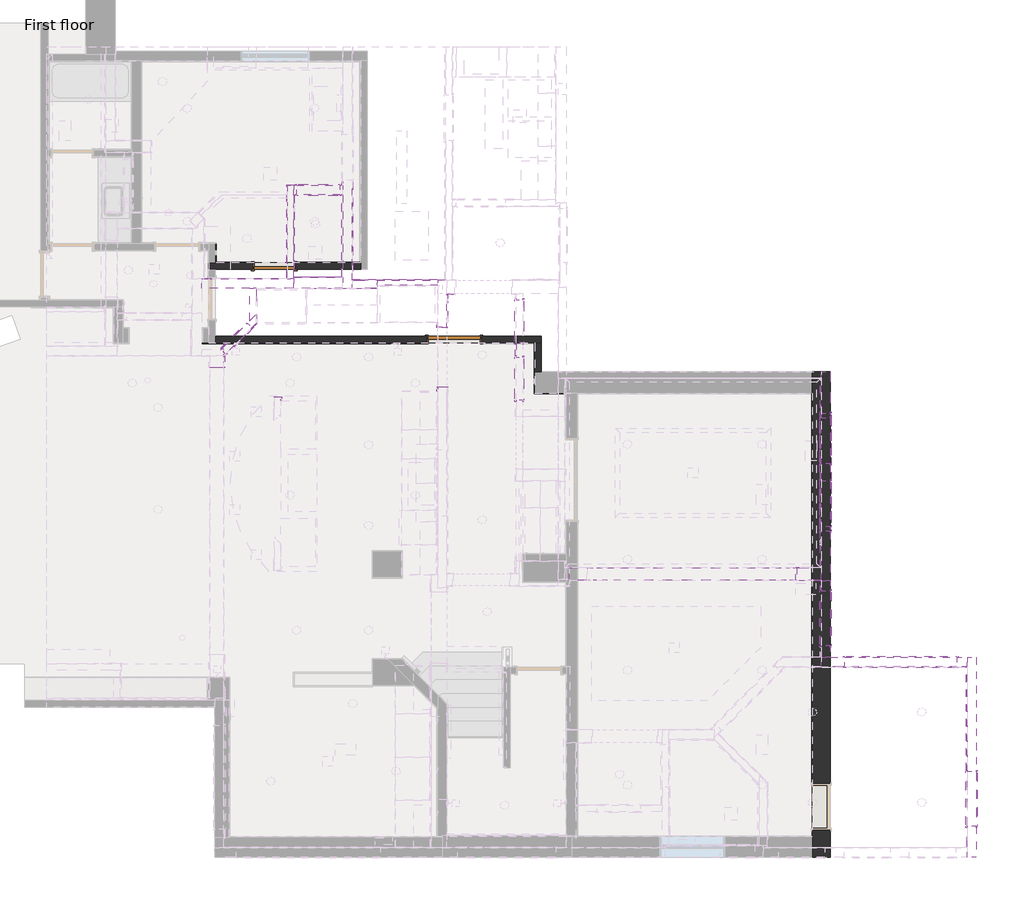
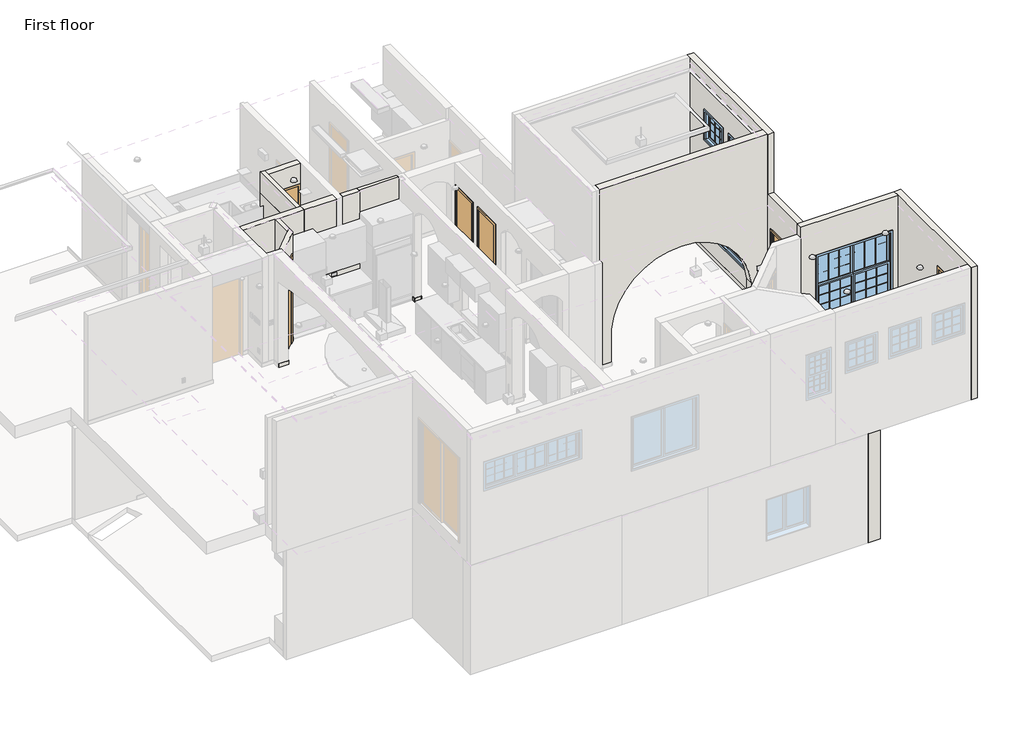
# One storey, part 6 of 14: 58 walls, 8 doors, 4 windows.
"""IFC4 building model written with IfcOpenShell, lengths in millimetres."""

from ifc_helpers import new_model, si_unit, frame, origin, origin_with_axes, place, context, project, spatial, polyline, circle_curve, outline, extrude, faceted_brep, transform, mapped, element, save
from ifc_brep_helpers import plane_surface, revolved_surface, advanced_brep
from components import door_ce178138, door_2f67bbe1, door_b1a27719, door_855f9067, door_d19942fc, door_a6e0097c, door_cd79e99e, window_02a85cad, window_b70387c5, window_753088f9

model = new_model("IFC4")

# Units and contexts
model_context = context("Model", 3, world=origin())
ifc_project = project(units=[si_unit("LENGTHUNIT", "METRE", prefix="MILLI")], contexts=[model_context])

# Site, building, storey
site = spatial("IfcSite", under=ifc_project)
building = spatial("IfcBuilding", under=site)
storey = spatial("IfcBuildingStorey", under=building, Name="First floor", Elevation=0.0)

# Doors
placement = place(None, origin())
door_shape = door_ce178138(model_context)
element("IfcDoor", 1, ObjectType="C_Single Door : 2'-0\" X 8'-0\"", at=placement, inside=storey, context=model_context, shape_type="MappedRepresentation", body=[
    mapped(door_shape, transform((385.1436821, 9152.7659872, 3251.2), x_axis=(0.7071067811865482, 0.7071067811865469, 0.0), y_axis=(-0.7071067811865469, 0.7071067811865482, 0.0), z_axis=(0.0, 0.0, 1.0))),
])
door_2_shape = door_2f67bbe1(model_context)
element("IfcDoor", 2, ObjectType="C_Single Door : 2'-4\" X 8'-0\"", at=placement, inside=storey, context=model_context, shape_type="MappedRepresentation", body=[
    mapped(door_2_shape, transform((5378.45, 9461.3947939, 3251.2), x_axis=(0.0, 1.0, 0.0), y_axis=(-1.0, 0.0, 0.0), z_axis=(0.0, 0.0, 1.0))),
])
element("IfcDoor", 3, ObjectType="C_Single Door : 2'-4\" X 8'-0\"", at=placement, inside=storey, context=model_context, shape_type="MappedRepresentation", body=[
    mapped(door_2_shape, transform((5378.45, 8445.3947939, 3251.2), x_axis=(0.0, 1.0, 0.0), y_axis=(-1.0, 0.0, 0.0), z_axis=(0.0, 0.0, 1.0))),
])
door_3_shape = door_b1a27719(model_context)
element("IfcDoor", 4, ObjectType="C_Single Door : 2'-4\" X 8'-0\"", at=placement, inside=storey, context=model_context, shape_type="MappedRepresentation", body=[
    mapped(door_3_shape, transform((1828.8, 11779.1447939, 3251.2), x_axis=(-1.0, 0.0, 0.0), y_axis=(0.0, -1.0, 0.0), z_axis=(0.0, 0.0, 1.0))),
])
door_4_shape = door_855f9067(model_context)
element("IfcDoor", 5, ObjectType="C_Single Door : 2'-4\" X 8'-2\"", at=placement, inside=storey, context=model_context, shape_type="MappedRepresentation", body=[
    mapped(door_4_shape, transform((1054.1, 10433.05, 0.0), x_axis=(1.0, 0.0, 0.0), y_axis=(0.0, 1.0, 0.0), z_axis=(0.0, 0.0, 1.0))),
])
door_5_shape = door_d19942fc(model_context)
element("IfcDoor", 6, ObjectType="C_Single Door : 3'-0\" X 8'-0\"", at=placement, inside=storey, context=model_context, shape_type="MappedRepresentation", body=[
    mapped(door_5_shape, transform((13366.75, 1028.7, 3251.2), x_axis=(0.0, 1.0, 0.0), y_axis=(-1.0, 0.0, 0.0), z_axis=(0.0, 0.0, 1.0))),
])
door_6_shape = door_a6e0097c(model_context)
element("IfcDoor", 7, ObjectType="C_Single Door : 3'-0\" X 8'-0\"", at=placement, inside=storey, context=model_context, shape_type="MappedRepresentation", body=[
    mapped(door_6_shape, transform((4229.1, 9137.65, 0.0), x_axis=(-1.0, 0.0, 0.0), y_axis=(0.0, -1.0, 0.0), z_axis=(0.0, 0.0, 1.0))),
])
door_7_shape = door_cd79e99e(model_context)
element("IfcDoor", 8, ObjectType="C_Single Door Glass : 3'-0\" X 8'-0\"", at=placement, inside=storey, context=model_context, shape_type="MappedRepresentation", body=[
    mapped(door_7_shape, transform((10788.65, 4216.4, 3251.2), x_axis=(0.0, 1.0, 0.0), y_axis=(-1.0, 0.0, 0.0), z_axis=(0.0, 0.0, 1.0))),
])

# Walls
element("IfcWall", 9, ObjectType="Wall Border_T1", at=placement, inside=storey, context=model_context, shape_type="SweptSolid", body=[
    extrude(outline(polyline([(10541.0, 1320.8), (10541.0, 8178.8), (10553.7, 8178.8), (10553.7, 1320.8), (10541.0, 1320.8)])), origin_with_axes(), (0.0, 0.0, 1.0), 101.6),
])
element("IfcWall", 10, ObjectType="Wall Border_T1", at=placement, inside=storey, context=model_context, shape_type="Brep", body=[
    faceted_brep([(-215.9, 9067.8, 0.0), (3721.1, 9067.8, 0.0), (3721.1, 9067.8, 101.6), (-215.9, 9067.8, 101.6), (-215.9, 9080.5, 0.0), (-215.9, 9080.5, 101.6), (-203.2, 9080.5, 101.6), (3721.1, 9080.5, 101.6), (3721.1, 9080.5, 0.0), (-203.2, 9080.5, 0.0)], [[[0, 1, 2, 3]], [[4, 5, 6, 7, 8, 9]], [[1, 0, 4, 9, 8]], [[2, 1, 8, 7]], [[3, 2, 7, 6, 5]], [[0, 3, 5, 4]]]),
])
element("IfcWall", 11, ObjectType="Wall Border_T1", at=placement, inside=storey, context=model_context, shape_type="Brep", body=[
    faceted_brep([(5638.8, 9080.5, 0.0), (5638.8, 9067.8, 0.0), (5638.8, 8191.5, 0.0), (5638.8, 8191.5, 101.6), (5638.8, 9067.8, 101.6), (5638.8, 9080.5, 101.6), (5651.5, 9080.5, 0.0), (5651.5, 9080.5, 101.6), (5651.5, 8191.5, 101.6), (5651.5, 8191.5, 0.0)], [[[0, 1, 2, 3, 4, 5]], [[6, 7, 8, 9]], [[2, 1, 0, 6, 9]], [[3, 2, 9, 8]], [[5, 4, 3, 8, 7]], [[0, 5, 7, 6]]]),
])
element("IfcWall", 12, ObjectType="Wall Border_T1", at=placement, inside=storey, context=model_context, shape_type="Brep", body=[
    faceted_brep([(5638.8, 8178.8, 0.0), (6197.6, 8178.8, 0.0), (6197.6, 8178.8, 101.6), (5638.8, 8178.8, 101.6), (5638.8, 8191.5, 0.0), (5638.8, 8191.5, 101.6), (5651.5, 8191.5, 101.6), (6197.6, 8191.5, 101.6), (6197.6, 8191.5, 0.0), (5651.5, 8191.5, 0.0)], [[[0, 1, 2, 3]], [[4, 5, 6, 7, 8, 9]], [[1, 0, 4, 9, 8]], [[2, 1, 8, 7]], [[3, 2, 7, 6, 5]], [[0, 3, 5, 4]]]),
])
element("IfcWall", 13, ObjectType="Wall Border_T1", at=placement, inside=storey, context=model_context, shape_type="Brep", body=[
    faceted_brep([(1460.5, 10490.2, 0.0), (2578.1, 10490.2, 0.0), (2578.1, 10490.2, 101.6), (1460.5, 10490.2, 101.6), (1460.5, 10502.9, 0.0), (1460.5, 10502.9, 101.6), (2565.4, 10502.9, 101.6), (2578.1, 10502.9, 101.6), (2578.1, 10502.9, 0.0), (2565.4, 10502.9, 0.0)], [[[0, 1, 2, 3]], [[4, 5, 6, 7, 8, 9]], [[1, 0, 4, 9, 8]], [[2, 1, 8, 7]], [[3, 2, 7, 6, 5]], [[0, 3, 5, 4]]]),
])
element("IfcWall", 14, ObjectType="Wall Border_T1", at=placement, inside=storey, context=model_context, shape_type="SweptSolid", body=[
    extrude(outline(polyline([(647.7, 10502.9), (647.7, 10490.2), (25.4, 10490.2), (25.4, 10502.9), (647.7, 10502.9)])), origin_with_axes(), (0.0, 0.0, 1.0), 101.6),
])
element("IfcWall", 15, ObjectType="Wall Border_T1", at=placement, inside=storey, context=model_context, shape_type="Brep", body=[
    faceted_brep([(25.4, 10490.2, 0.0), (25.4, 10502.9, 0.0), (25.4, 10833.1, 0.0), (25.4, 10833.1, 101.6), (25.4, 10502.9, 101.6), (25.4, 10490.2, 101.6), (12.7, 10490.2, 0.0), (12.7, 10490.2, 101.6), (12.7, 10833.1, 101.6), (12.7, 10833.1, 0.0)], [[[0, 1, 2, 3, 4, 5]], [[6, 7, 8, 9]], [[2, 1, 0, 6, 9]], [[3, 2, 9, 8]], [[5, 4, 3, 8, 7]], [[0, 5, 7, 6]]]),
])
element("IfcWall", 16, ObjectType="Wall Border_T1", at=placement, inside=storey, context=model_context, shape_type="SweptSolid", body=[
    extrude(outline(polyline([(5308.6, 8851.7947939), (5308.6, 9054.9947939), (5321.3, 9054.9947939), (5321.3, 8851.7947939), (5308.6, 8851.7947939)])), frame((0.0, 0.0, 3251.2), z_axis=(0.0, 0.0, 1.0), x_axis=(1.0, 0.0, 0.0)), (0.0, 0.0, 1.0), 101.6),
])
element("IfcWall", 17, ObjectType="Wall Border_T1", at=placement, inside=storey, context=model_context, shape_type="Brep", body=[
    faceted_brep([(4241.8, 9943.9947939, 3251.2), (4102.1, 9943.9947939, 3251.2), (4102.1, 9943.9947939, 3352.8), (4241.8, 9943.9947939, 3352.8), (4241.8, 9931.2947939, 3251.2), (4241.8, 9931.2947939, 3352.8), (4114.8, 9931.2947939, 3352.8), (4102.1, 9931.2947939, 3352.8), (4102.1, 9931.2947939, 3251.2), (4114.8, 9931.2947939, 3251.2)], [[[0, 1, 2, 3]], [[4, 5, 6, 7, 8, 9]], [[1, 0, 4, 9, 8]], [[3, 2, 7, 6, 5]], [[0, 3, 5, 4]], [[2, 1, 8, 7]]]),
])
element("IfcWall", 18, ObjectType="Wall Border_T1", at=placement, inside=storey, context=model_context, shape_type="Brep", body=[
    faceted_brep([(4102.1, 9931.2947939, 3251.2), (4102.1, 9359.7947939, 3251.2), (4102.1, 9347.0947939, 3251.2), (4102.1, 9347.0947939, 3352.8), (4102.1, 9359.7947939, 3352.8), (4102.1, 9931.2947939, 3352.8), (4114.8, 9931.2947939, 3251.2), (4114.8, 9931.2947939, 3352.8), (4114.8, 9347.0947939, 3352.8), (4114.8, 9347.0947939, 3251.2)], [[[0, 1, 2, 3, 4, 5]], [[6, 7, 8, 9]], [[2, 1, 0, 6, 9]], [[5, 4, 3, 8, 7]], [[0, 5, 7, 6]], [[3, 2, 9, 8]]]),
])
element("IfcWall", 19, ObjectType="Wall Border_T1", at=placement, inside=storey, context=model_context, shape_type="Brep", body=[
    faceted_brep([(3924.3, 8292.9947939, 3251.2), (3937.0, 8292.9947939, 3251.2), (4102.1, 8292.9947939, 3251.2), (4114.8, 8292.9947939, 3251.2), (4114.8, 8292.9947939, 3352.8), (4102.1, 8292.9947939, 3352.8), (3937.0, 8292.9947939, 3352.8), (3924.3, 8292.9947939, 3352.8), (3924.3, 8305.6947939, 3251.2), (3924.3, 8305.6947939, 3352.8), (4114.8, 8305.6947939, 3352.8), (4114.8, 8305.6947939, 3251.2)], [[[0, 1, 2, 3, 4, 5, 6, 7]], [[8, 9, 10, 11]], [[3, 2, 1, 0, 8, 11]], [[7, 6, 5, 4, 10, 9]], [[4, 3, 11, 10]], [[0, 7, 9, 8]]]),
])
element("IfcWall", 20, ObjectType="Wall Border_T1", at=placement, inside=storey, context=model_context, shape_type="Brep", body=[
    faceted_brep([(2247.9, 11925.1947939, 3251.2), (2247.9, 11874.3947939, 3251.2), (2247.9, 11861.6947939, 3251.2), (2247.9, 11861.6947939, 3352.8), (2247.9, 11874.3947939, 3352.8), (2247.9, 11925.1947939, 3352.8), (2260.6, 11925.1947939, 3251.2), (2260.6, 11925.1947939, 3352.8), (2260.6, 11861.6947939, 3352.8), (2260.6, 11861.6947939, 3251.2)], [[[0, 1, 2, 3, 4, 5]], [[6, 7, 8, 9]], [[2, 1, 0, 6, 9]], [[5, 4, 3, 8, 7]], [[0, 5, 7, 6]], [[3, 2, 9, 8]]]),
])
element("IfcWall", 21, ObjectType="Wall Border_T1", at=placement, inside=storey, context=model_context, shape_type="Brep", body=[
    faceted_brep([(1270.0, 11836.4, 3251.2), (1270.0, 10223.5, 3251.2), (1270.0, 10210.8, 3251.2), (1270.0, 10210.8, 5715.0), (1270.0, 10223.5, 5715.0), (1270.0, 11836.4, 5715.0), (1270.0, 11836.4, 3352.8), (1282.7, 11836.4, 3251.2), (1282.7, 11836.4, 3352.8), (1282.7, 11836.4, 5715.0), (1282.7, 10210.8, 5715.0), (1282.7, 10210.8, 3251.2)], [[[0, 1, 2, 3, 4, 5, 6]], [[7, 8, 9, 10, 11]], [[2, 1, 0, 7, 11]], [[5, 4, 3, 10, 9]], [[0, 6, 5, 9, 8, 7]], [[3, 2, 11, 10]]]),
])
element("IfcWall", 22, ObjectType="Wall Border_T1", at=placement, inside=storey, context=model_context, shape_type="Brep", body=[
    faceted_brep([(1270.0, 10223.5, 3251.2), (-177.8, 10223.5, 3251.2), (-190.5, 10223.5, 3251.2), (-190.5, 10223.5, 5715.0), (-177.8, 10223.5, 5715.0), (1270.0, 10223.5, 5715.0), (1270.0, 10210.8, 3251.2), (1270.0, 10210.8, 5715.0), (-190.5, 10210.8, 5715.0), (-190.5, 10210.8, 3251.2)], [[[0, 1, 2, 3, 4, 5]], [[6, 7, 8, 9]], [[2, 1, 0, 6, 9]], [[5, 4, 3, 8, 7]], [[0, 5, 7, 6]], [[3, 2, 9, 8]]]),
])
element("IfcWall", 23, ObjectType="Wall Border_T1", at=placement, inside=storey, context=model_context, shape_type="SweptSolid", body=[
    extrude(outline(polyline([(2247.9, 11861.6947939), (2235.2, 11861.6947939), (2235.2, 11874.3947939), (2247.9, 11874.3947939), (2247.9, 11861.6947939)])), frame((0.0, 0.0, 3251.2), z_axis=(0.0, 0.0, 1.0), x_axis=(1.0, 0.0, 0.0)), (0.0, 0.0, 1.0), 101.6),
])
element("IfcWall", 24, ObjectType="Wall Border_T1", at=placement, inside=storey, context=model_context, shape_type="Brep", body=[
    faceted_brep([(1422.4, 11874.3947939, 3251.2), (1270.0, 11874.3947939, 3251.2), (1270.0, 11874.3947939, 3352.8), (1422.4, 11874.3947939, 3352.8), (1422.4, 11861.6947939, 3251.2), (1422.4, 11861.6947939, 3352.8), (1282.7, 11861.6947939, 3352.8), (1270.0, 11861.6947939, 3352.8), (1270.0, 11861.6947939, 3251.2), (1282.7, 11861.6947939, 3251.2)], [[[0, 1, 2, 3]], [[4, 5, 6, 7, 8, 9]], [[1, 0, 4, 9, 8]], [[3, 2, 7, 6, 5]], [[0, 3, 5, 4]], [[2, 1, 8, 7]]]),
])
element("IfcWall", 25, ObjectType="Wall Border_T1", at=placement, inside=storey, context=model_context, shape_type="SweptSolid", body=[
    extrude(outline(polyline([(1270.0, 11836.4), (1270.0, 11861.6947939), (1282.7, 11861.6947939), (1282.7, 11836.4), (1270.0, 11836.4)])), frame((0.0, 0.0, 3251.2), z_axis=(0.0, 0.0, 1.0), x_axis=(1.0, 0.0, 0.0)), (0.0, 0.0, 1.0), 101.6),
])
element("IfcWall", 26, ObjectType="Wall Border_T1", at=placement, inside=storey, context=model_context, shape_type="Brep", body=[
    faceted_brep([(1422.4, 11696.5947939, 3251.2), (1397.0, 11696.5947939, 3251.2), (1397.0, 11696.5947939, 3352.8), (1422.4, 11696.5947939, 3352.8), (1422.4, 11683.8947939, 3251.2), (1422.4, 11683.8947939, 3352.8), (1409.7, 11683.8947939, 3352.8), (1397.0, 11683.8947939, 3352.8), (1397.0, 11683.8947939, 3251.2), (1409.7, 11683.8947939, 3251.2)], [[[0, 1, 2, 3]], [[4, 5, 6, 7, 8, 9]], [[1, 0, 4, 9, 8]], [[3, 2, 7, 6, 5]], [[0, 3, 5, 4]], [[2, 1, 8, 7]]]),
])
element("IfcWall", 27, ObjectType="Wall Border_T1", at=placement, inside=storey, context=model_context, shape_type="Brep", body=[
    faceted_brep([(1397.0, 11683.8947939, 3251.2), (1397.0, 10236.2, 3251.2), (1397.0, 10236.2, 3352.8), (1397.0, 11683.8947939, 3352.8), (1409.7, 11683.8947939, 3251.2), (1409.7, 11683.8947939, 3352.8), (1409.7, 10248.9, 3352.8), (1409.7, 10236.2, 3352.8), (1409.7, 10236.2, 3251.2), (1409.7, 10248.9, 3251.2)], [[[0, 1, 2, 3]], [[4, 5, 6, 7, 8, 9]], [[1, 0, 4, 9, 8]], [[3, 2, 7, 6, 5]], [[0, 3, 5, 4]], [[2, 1, 8, 7]]]),
])
element("IfcWall", 28, ObjectType="Wall Border_T1", at=placement, inside=storey, context=model_context, shape_type="Brep", body=[
    faceted_brep([(1409.7, 10236.2, 3251.2), (2260.6, 10236.2, 3251.2), (2260.6, 10236.2, 3352.8), (1409.7, 10236.2, 3352.8), (1409.7, 10248.9, 3251.2), (1409.7, 10248.9, 3352.8), (2247.9, 10248.9, 3352.8), (2260.6, 10248.9, 3352.8), (2260.6, 10248.9, 3251.2), (2247.9, 10248.9, 3251.2)], [[[0, 1, 2, 3]], [[4, 5, 6, 7, 8, 9]], [[1, 0, 4, 9, 8]], [[3, 2, 7, 6, 5]], [[0, 3, 5, 4]], [[2, 1, 8, 7]]]),
])
element("IfcWall", 29, ObjectType="Wall Border_T1", at=placement, inside=storey, context=model_context, shape_type="Brep", body=[
    faceted_brep([(2260.6, 10248.9, 3251.2), (2260.6, 11696.5947939, 3251.2), (2260.6, 11696.5947939, 3352.8), (2260.6, 10248.9, 3352.8), (2247.9, 10248.9, 3251.2), (2247.9, 10248.9, 3352.8), (2247.9, 11683.8947939, 3352.8), (2247.9, 11696.5947939, 3352.8), (2247.9, 11696.5947939, 3251.2), (2247.9, 11683.8947939, 3251.2)], [[[0, 1, 2, 3]], [[4, 5, 6, 7, 8, 9]], [[1, 0, 4, 9, 8]], [[3, 2, 7, 6, 5]], [[0, 3, 5, 4]], [[2, 1, 8, 7]]]),
])
element("IfcWall", 30, ObjectType="Wall Border_T1", at=placement, inside=storey, context=model_context, shape_type="SweptSolid", body=[
    extrude(outline(polyline([(2235.2, 11696.5947939), (2247.9, 11696.5947939), (2247.9, 11683.8947939), (2235.2, 11683.8947939), (2235.2, 11696.5947939)])), frame((0.0, 0.0, 3251.2), z_axis=(0.0, 0.0, 1.0), x_axis=(1.0, 0.0, 0.0)), (0.0, 0.0, 1.0), 101.6),
])
element("IfcWall", 31, ObjectType="Wall Border_T1", at=placement, inside=storey, context=model_context, shape_type="Brep", body=[
    faceted_brep([(2425.7, 11925.1947939, 3251.2), (2425.7, 10185.4, 3251.2), (2425.7, 10185.4, 3352.8), (2425.7, 11925.1947939, 3352.8), (2438.4, 11925.1947939, 3251.2), (2438.4, 11925.1947939, 3352.8), (2438.4, 10198.1, 3352.8), (2438.4, 10185.4, 3352.8), (2438.4, 10185.4, 3251.2), (2438.4, 10198.1, 3251.2)], [[[0, 1, 2, 3]], [[4, 5, 6, 7, 8, 9]], [[1, 0, 4, 9, 8]], [[3, 2, 7, 6, 5]], [[0, 3, 5, 4]], [[2, 1, 8, 7]]]),
])
element("IfcWall", 32, ObjectType="Wall Border_T1", at=placement, inside=storey, context=model_context, shape_type="Brep", body=[
    faceted_brep([(2438.4, 10185.4, 3251.2), (4076.7, 10185.4, 3251.2), (4076.7, 10185.4, 3352.8), (2438.4, 10185.4, 3352.8), (2438.4, 10198.1, 3251.2), (2438.4, 10198.1, 3352.8), (4064.0, 10198.1, 3352.8), (4076.7, 10198.1, 3352.8), (4076.7, 10198.1, 3251.2), (4064.0, 10198.1, 3251.2)], [[[0, 1, 2, 3]], [[4, 5, 6, 7, 8, 9]], [[1, 0, 4, 9, 8]], [[3, 2, 7, 6, 5]], [[0, 3, 5, 4]], [[2, 1, 8, 7]]]),
])
element("IfcWall", 33, ObjectType="Wall Border_T1", at=placement, inside=storey, context=model_context, shape_type="Brep", body=[
    faceted_brep([(4102.1, 9359.7947939, 3251.2), (3937.0, 9359.7947939, 3251.2), (3924.3, 9359.7947939, 3251.2), (3924.3, 9359.7947939, 3352.8), (3937.0, 9359.7947939, 3352.8), (4102.1, 9359.7947939, 3352.8), (4102.1, 9347.0947939, 3251.2), (4102.1, 9347.0947939, 3352.8), (3924.3, 9347.0947939, 3352.8), (3924.3, 9347.0947939, 3251.2)], [[[0, 1, 2, 3, 4, 5]], [[6, 7, 8, 9]], [[2, 1, 0, 6, 9]], [[5, 4, 3, 8, 7]], [[3, 2, 9, 8]], [[0, 5, 7, 6]]]),
])
element("IfcWall", 34, ObjectType="Wall Border_T1", at=placement, inside=storey, context=model_context, shape_type="SweptSolid", body=[
    extrude(outline(polyline([(3937.0, 9436.1), (3937.0, 9359.7947939), (3924.3, 9359.7947939), (3924.3, 9436.1), (3937.0, 9436.1)])), frame((0.0, 0.0, 3251.2), z_axis=(0.0, 0.0, 1.0), x_axis=(1.0, 0.0, 0.0)), (0.0, 0.0, 1.0), 101.6),
])
element("IfcWall", 35, ObjectType="Wall Border_T1", at=placement, inside=storey, context=model_context, shape_type="SweptSolid", body=[
    extrude(outline(polyline([(10693.4, 5118.1001027), (10693.4, 8445.5), (10706.1, 8445.5), (10706.1, 5118.1001027), (10693.4, 5118.1001027)])), frame((0.0, 0.0, 3251.2), z_axis=(0.0, 0.0, 1.0), x_axis=(1.0, 0.0, 0.0)), (0.0, 0.0, 1.0), 101.6),
])
element("IfcWall", 36, ObjectType="Wall Border_T1", at=placement, inside=storey, context=model_context, shape_type="Brep", body=[
    faceted_brep([(10706.1, 5118.1001027, 3251.2), (10693.4, 5118.1001027, 3251.2), (10261.7527866, 5118.1001027, 3251.2), (10261.7527866, 5118.1001027, 3352.8), (10693.4, 5118.1001027, 3352.8), (10706.1, 5118.1001027, 3352.8), (10706.1, 5105.4001027, 3251.2), (10706.1, 5105.4001027, 3352.8), (10274.4527866, 5105.4001027, 3352.8), (10261.7527866, 5105.4001027, 3352.8), (10261.7527866, 5105.4001027, 3251.2), (10274.4527866, 5105.4001027, 3251.2)], [[[0, 1, 2, 3, 4, 5]], [[6, 7, 8, 9, 10, 11]], [[2, 1, 0, 6, 11, 10]], [[5, 4, 3, 9, 8, 7]], [[3, 2, 10, 9]], [[0, 5, 7, 6]]]),
])
element("IfcWall", 37, ObjectType="Wall Border_T1", at=placement, inside=storey, context=model_context, shape_type="Brep", body=[
    faceted_brep([(10261.7527866, 4876.8001027, 3251.2), (10693.4, 4876.8001027, 3251.2), (10706.1, 4876.8001027, 3251.2), (10706.1, 4876.8001027, 3352.8), (10693.4, 4876.8001027, 3352.8), (10261.7527866, 4876.8001027, 3352.8), (10261.7527866, 4889.5001027, 3251.2), (10261.7527866, 4889.5001027, 3352.8), (10274.4527866, 4889.5001027, 3352.8), (10706.1, 4889.5001027, 3352.8), (10706.1, 4889.5001027, 3251.2), (10274.4527866, 4889.5001027, 3251.2)], [[[0, 1, 2, 3, 4, 5]], [[6, 7, 8, 9, 10, 11]], [[2, 1, 0, 6, 11, 10]], [[5, 4, 3, 9, 8, 7]], [[0, 5, 7, 6]], [[3, 2, 10, 9]]]),
])
element("IfcWall", 38, ObjectType="Wall Border_T1", at=placement, inside=storey, context=model_context, shape_type="SweptSolid", body=[
    extrude(outline(polyline([(10693.4, 4724.4), (10693.4, 4876.8001027), (10706.1, 4876.8001027), (10706.1, 4724.4), (10693.4, 4724.4)])), frame((0.0, 0.0, 3251.2), z_axis=(0.0, 0.0, 1.0), x_axis=(1.0, 0.0, 0.0)), (0.0, 0.0, 1.0), 101.6),
])
element("IfcWall", 39, ObjectType="Wall Border_T1", at=placement, inside=storey, context=model_context, shape_type="Brep", body=[
    faceted_brep([(13271.5, 3359.15, 3251.2), (13271.5, 3346.45, 3251.2), (13271.5, 1536.7, 3251.2), (13271.5, 1536.7, 3352.8), (13271.5, 3346.45, 3352.8), (13271.5, 3359.15, 3352.8), (13284.2, 3359.15, 3251.2), (13284.2, 3359.15, 3352.8), (13284.2, 1536.7, 3352.8), (13284.2, 1536.7, 3251.2)], [[[0, 1, 2, 3, 4, 5]], [[6, 7, 8, 9]], [[2, 1, 0, 6, 9]], [[3, 2, 9, 8]], [[5, 4, 3, 8, 7]], [[0, 5, 7, 6]]]),
])
element("IfcWall", 40, ObjectType="Wall Border_T1", at=placement, inside=storey, context=model_context, shape_type="Brep", body=[
    faceted_brep([(-88.9, 8636.0, 3251.2), (177.8, 8636.0, 3251.2), (177.8, 8636.0, 3352.8), (-88.9, 8636.0, 3352.8), (-88.9, 8648.7, 3251.2), (-88.9, 8648.7, 3352.8), (165.1, 8648.7, 3352.8), (177.8, 8648.7, 3352.8), (177.8, 8648.7, 3251.2), (165.1, 8648.7, 3251.2)], [[[0, 1, 2, 3]], [[4, 5, 6, 7, 8, 9]], [[1, 0, 4, 9, 8]], [[3, 2, 7, 6, 5]], [[0, 3, 5, 4]], [[2, 1, 8, 7]]]),
])
element("IfcWall", 41, ObjectType="Wall Border_T1", at=placement, inside=storey, context=model_context, shape_type="SweptSolid", body=[
    extrude(outline(polyline([(177.8, 8846.6394878), (177.8, 8648.7), (165.1, 8648.7), (165.1, 8833.9394878), (177.8, 8846.6394878)])), frame((0.0, 0.0, 3251.2), z_axis=(0.0, 0.0, 1.0), x_axis=(1.0, 0.0, 0.0)), (0.0, 0.0, 1.0), 101.6),
])
element("IfcWall", 42, ObjectType="Wall Border_T1", at=placement, inside=storey, context=model_context, shape_type="Brep", body=[
    faceted_brep([(165.1, 8833.9394878, 3251.2), (177.8, 8846.6394878, 3251.2), (183.0879194, 8851.9274072, 3251.2), (183.0879194, 8851.9274072, 3352.8), (177.8, 8846.6394878, 3352.8), (165.1, 8833.9394878, 3352.8), (165.1, 8851.9, 3251.2), (165.1, 8851.9, 3352.8), (174.1076633, 8860.9076633, 3352.8), (174.1076633, 8860.9076633, 3251.2)], [[[0, 1, 2, 3, 4, 5]], [[6, 7, 8, 9]], [[2, 1, 0, 6, 9]], [[3, 2, 9, 8]], [[5, 4, 3, 8, 7]], [[0, 5, 7, 6]]]),
])
element("IfcWall", 43, ObjectType="Wall Border_T1", at=placement, inside=storey, context=model_context, shape_type="SweptSolid", body=[
    extrude(outline(polyline([(736.4972395, 9405.3367272), (685.9822622, 9354.8217499), (677.0020061, 9363.8020061), (736.4972395, 9423.2972395), (736.4972395, 9405.3367272)])), frame((0.0, 0.0, 3251.2), z_axis=(0.0, 0.0, 1.0), x_axis=(1.0, 0.0, 0.0)), (0.0, 0.0, 1.0), 101.6),
])
element("IfcWall", 44, ObjectType="Wall Border_T1", at=placement, inside=storey, context=model_context, shape_type="Brep", body=[
    faceted_brep([(736.4972395, 9436.1, 3251.2), (736.4972395, 9423.2972395, 3251.2), (736.4972395, 9405.3367272, 3251.2), (736.4972395, 9405.3367272, 3352.8), (736.4972395, 9423.2972395, 3352.8), (736.4972395, 9436.1, 3352.8), (749.1972395, 9436.1, 3251.2), (749.1972395, 9436.1, 3352.8), (749.1972395, 9418.0367272, 3352.8), (749.1972395, 9418.0367272, 3251.2)], [[[0, 1, 2, 3, 4, 5]], [[6, 7, 8, 9]], [[2, 1, 0, 6, 9]], [[5, 4, 3, 8, 7]], [[0, 5, 7, 6]], [[3, 2, 9, 8]]]),
])
element("IfcWall", 45, ObjectType="Wall Border_T1", at=placement, inside=storey, context=model_context, shape_type="SweptSolid", body=[
    extrude(outline(polyline([(2870.2, 10033.0), (1625.4972395, 10033.0), (1625.4972395, 10045.7), (2870.2, 10045.7), (2870.2, 10033.0)])), frame((0.0, 0.0, 4152.9), z_axis=(0.0, 0.0, 1.0), x_axis=(1.0, 0.0, 0.0)), (0.0, 0.0, 1.0), 368.3),
])
element("IfcWall", 46, ObjectType="Wall Border_T1", at=placement, inside=storey, context=model_context, shape_type="Brep", body=[
    faceted_brep([(1181.1, 8058.15, 3251.2), (1181.1, 8128.0, 3251.2), (1181.1, 8128.0, 3352.8), (1181.1, 8058.15, 3352.8), (1168.4, 8058.15, 3251.2), (1168.4, 8058.15, 3352.8), (1168.4, 8115.3, 3352.8), (1168.4, 8128.0, 3352.8), (1168.4, 8128.0, 3251.2), (1168.4, 8115.3, 3251.2)], [[[0, 1, 2, 3]], [[4, 5, 6, 7, 8, 9]], [[1, 0, 4, 9, 8]], [[3, 2, 7, 6, 5]], [[0, 3, 5, 4]], [[2, 1, 8, 7]]]),
])
element("IfcWall", 47, ObjectType="Wall Border_T1", at=placement, inside=storey, context=model_context, shape_type="Brep", body=[
    faceted_brep([(1168.4, 8128.0, 3251.2), (1041.4, 8128.0, 3251.2), (1041.4, 8128.0, 3352.8), (1168.4, 8128.0, 3352.8), (1168.4, 8115.3, 3251.2), (1168.4, 8115.3, 3352.8), (1054.1, 8115.3, 3352.8), (1041.4, 8115.3, 3352.8), (1041.4, 8115.3, 3251.2), (1054.1, 8115.3, 3251.2)], [[[0, 1, 2, 3]], [[4, 5, 6, 7, 8, 9]], [[1, 0, 4, 9, 8]], [[3, 2, 7, 6, 5]], [[0, 3, 5, 4]], [[2, 1, 8, 7]]]),
])
element("IfcWall", 48, ObjectType="Wall Border_T1", at=placement, inside=storey, context=model_context, shape_type="SweptSolid", body=[
    extrude(outline(polyline([(3924.3, 8223.1447939), (3924.3, 8292.9947939), (3937.0, 8292.9947939), (3937.0, 8223.1447939), (3924.3, 8223.1447939)])), frame((0.0, 0.0, 3251.2), z_axis=(0.0, 0.0, 1.0), x_axis=(1.0, 0.0, 0.0)), (0.0, 0.0, 1.0), 101.6),
])
element("IfcWall", 49, ObjectType="Wall Border_T1", at=placement, inside=storey, context=model_context, shape_type="SweptSolid", body=[
    extrude(outline(polyline([(10261.7527866, 4889.5001027), (10261.7527866, 5105.4001027), (10274.4527866, 5105.4001027), (10274.4527866, 4889.5001027), (10261.7527866, 4889.5001027)])), frame((0.0, 0.0, 3251.2), z_axis=(0.0, 0.0, 1.0), x_axis=(1.0, 0.0, 0.0)), (0.0, 0.0, 1.0), 101.6),
])
element("IfcWall", 50, ObjectType="Wall_1'1/2\"", at=placement, inside=storey, context=model_context, shape_type="Brep", body=[
    faceted_brep([(10871.2, 0.0, -152.4), (10871.2, 8572.5, -152.4), (10871.2, 8572.5, 2908.3), (10871.2, 0.0, 2908.3), (10871.2, 482.6, 0.0), (10871.2, 482.6, 2057.4), (10871.2, 1295.4, 2057.4), (10871.2, 1295.4, 0.0), (10553.7, 0.0, -152.4), (10553.7, 0.0, 2908.3), (10553.7, 355.6, 2908.3), (10553.7, 8191.5, 2908.3), (10553.7, 8572.5, 2908.3), (10553.7, 8572.5, -152.4), (10553.7, 8191.5, -152.4), (10553.7, 355.6, -152.4), (10553.7, 482.6, 0.0), (10553.7, 1295.4, 0.0), (10553.7, 1295.4, 2057.4), (10553.7, 482.6, 2057.4)], [[[0, 1, 2, 3], [4, 5, 6, 7]], [[8, 9, 10, 11, 12, 13, 14, 15], [16, 17, 18, 19]], [[1, 0, 8, 15, 14, 13]], [[3, 2, 12, 11, 10, 9]], [[0, 3, 9, 8]], [[1, 13, 12, 2]], [[17, 16, 4, 7]], [[18, 17, 7, 6]], [[19, 18, 6, 5]], [[16, 19, 5, 4]]]),
])
element("IfcWall", 51, ObjectType="Wall_3.5\"", at=placement, inside=storey, context=model_context, shape_type="SweptSolid", body=[
    extrude(outline(polyline([(3937.0, 10096.5), (2870.2, 10096.5), (2870.2, 10185.4), (3937.0, 10185.4), (3937.0, 10096.5)])), frame((0.0, 0.0, 3251.2), z_axis=(0.0, 0.0, 1.0), x_axis=(1.0, 0.0, 0.0)), (0.0, 0.0, 1.0), 3048.0),
])
element("IfcWall", 52, ObjectType="Wall_4.5\"", at=placement, inside=storey, context=model_context, shape_type="Brep", body=[
    faceted_brep([(736.4972395, 9423.2972395, 6299.2), (165.1, 8851.9, 6299.2), (165.1, 8851.9, 3251.2), (192.0681755, 8878.8681755, 3251.2), (192.0681755, 8878.8681755, 5715.0), (659.0414938, 9345.8414938, 5715.0), (659.0414938, 9345.8414938, 3251.2), (736.4972395, 9423.2972395, 3251.2), (117.7553898, 8966.2, 6299.2), (622.1972395, 9470.6418497, 6299.2), (736.4972395, 9584.9418497, 6299.2), (736.4972395, 9584.9418497, 3251.2), (622.1972395, 9470.6418497, 3251.2), (578.2191887, 9426.6637989, 3251.2), (578.2191887, 9426.6637989, 5715.0), (117.7553898, 8966.2, 5715.0), (165.1, 8905.836351, 3251.2), (165.1, 8966.2, 6299.2), (165.1, 8966.2, 5715.0), (165.1, 8905.836351, 5715.0)], [[[0, 1, 2, 3, 4, 5, 6, 7]], [[8, 9, 10, 11, 12, 13, 14, 15]], [[11, 7, 6, 13, 12]], [[3, 2, 16]], [[1, 0, 10, 9, 8, 17]], [[0, 7, 11, 10]], [[17, 8, 15, 18]], [[1, 17, 18, 19, 16, 2]], [[5, 14, 13, 6]], [[14, 5, 4, 19, 18, 15]], [[19, 4, 3, 16]]]),
])
element("IfcWall", 53, ObjectType="Wall_4.5\"", at=placement, inside=storey, context=model_context, shape_type="SweptSolid", body=[
    extrude(outline(polyline([(736.4972395, 10045.7), (736.4972395, 9584.9418497), (622.1972395, 9470.6418497), (622.1972395, 10045.7), (736.4972395, 10045.7)])), frame((0.0, 0.0, 3251.2), z_axis=(0.0, 0.0, 1.0), x_axis=(1.0, 0.0, 0.0)), (0.0, 0.0, 1.0), 3048.0),
])
element("IfcWall", 54, ObjectType="Wall_4.5\"", at=placement, inside=storey, context=model_context, shape_type="Brep", body=[
    faceted_brep([(1397.0, 10210.8, 3251.2), (1397.0, 10236.2, 3251.2), (1397.0, 11696.5947939, 3251.2), (1397.0, 11861.6947939, 3251.2), (1397.0, 11861.6947939, 6299.2), (1397.0, 11696.5947939, 6299.2), (1397.0, 10236.2, 6299.2), (1397.0, 10210.8, 6299.2), (1282.7, 10210.8, 3251.2), (1282.7, 10210.8, 6299.2), (1282.7, 11861.6947939, 6299.2), (1282.7, 11861.6947939, 3251.2)], [[[0, 1, 2, 3, 4, 5, 6, 7]], [[8, 9, 10, 11]], [[3, 2, 1, 0, 8, 11]], [[7, 6, 5, 4, 10, 9]], [[0, 7, 9, 8]], [[4, 3, 11, 10]]]),
])
element("IfcWall", 55, ObjectType="Wall_4.5\"", at=placement, inside=storey, context=model_context, shape_type="Brep", body=[
    faceted_brep([(2578.1, 10490.2, -152.4), (-101.6, 10490.2, -152.4), (-101.6, 10490.2, 0.0), (-101.6, 10490.2, 2565.4), (-101.6, 10490.2, 2908.3), (2578.1, 10490.2, 2908.3), (673.1, 10490.2, 0.0), (1435.1, 10490.2, 0.0), (1435.1, 10490.2, 2514.6), (673.1, 10490.2, 2514.6), (2578.1, 10375.9, -152.4), (2578.1, 10375.9, 2908.3), (12.7, 10375.9, 2908.3), (-101.6, 10375.9, 2908.3), (-101.6, 10375.9, -152.4), (12.7, 10375.9, -152.4), (673.1, 10375.9, 0.0), (673.1, 10375.9, 2514.6), (1435.1, 10375.9, 2514.6), (1435.1, 10375.9, 0.0)], [[[0, 1, 2, 3, 4, 5], [6, 7, 8, 9]], [[10, 11, 12, 13, 14, 15], [16, 17, 18, 19]], [[1, 0, 10, 15, 14]], [[5, 4, 13, 12, 11]], [[0, 5, 11, 10]], [[1, 14, 13, 4, 3, 2]], [[7, 6, 16, 19]], [[8, 7, 19, 18]], [[9, 8, 18, 17]], [[6, 9, 17, 16]]]),
])
element("IfcWall", 56, ObjectType="Wall_4.5\"", at=placement, inside=storey, context=model_context, shape_type="Brep", body=[
    faceted_brep([(12.7, 9080.5, 2908.3), (12.7, 9080.5, -152.4), (5651.5, 9080.5, -152.4), (5765.8, 9080.5, -152.4), (5765.8, 9080.5, 2908.3), (5651.5, 9080.5, 2908.3), (4711.7, 9080.5, 0.0), (3746.5, 9080.5, 0.0), (3746.5, 9080.5, 2463.8), (4711.7, 9080.5, 2463.8), (12.7, 9194.8, -152.4), (12.7, 9194.8, 2908.3), (5765.8, 9194.8, 2908.3), (5765.8, 9194.8, -152.4), (4711.7, 9194.8, 0.0), (4711.7, 9194.8, 2463.8), (3746.5, 9194.8, 2463.8), (3746.5, 9194.8, 0.0)], [[[0, 1, 2, 3, 4, 5], [6, 7, 8, 9]], [[10, 11, 12, 13], [14, 15, 16, 17]], [[3, 2, 1, 10, 13]], [[0, 5, 4, 12, 11]], [[4, 3, 13, 12]], [[0, 11, 10, 1]], [[7, 6, 14, 17]], [[8, 7, 17, 16]], [[9, 8, 16, 15]], [[6, 9, 15, 14]]]),
])
element("IfcWall", 57, ObjectType="Wall_4.5\"", at=placement, inside=storey, context=model_context, shape_type="SweptSolid", body=[
    extrude(outline(polyline([(5651.5, 8572.5), (5651.5, 9080.5), (5765.8, 9080.5), (5765.8, 8572.5), (5651.5, 8572.5)])), frame((0.0, 0.0, -152.4), z_axis=(0.0, 0.0, 1.0), x_axis=(1.0, 0.0, 0.0)), (0.0, 0.0, 1.0), 3060.7),
])
element("IfcWall", 58, ObjectType="Wall_5.5\"", at=placement, inside=storey, context=model_context, shape_type="Brep", body=[
    faceted_brep([(2425.7, 10045.7, 3251.2), (2870.2, 10045.7, 3251.2), (2870.2, 10045.7, 6299.2), (2425.7, 10045.7, 6299.2), (2425.7, 10185.4, 3251.2), (2425.7, 10185.4, 6299.2), (2870.2, 10185.4, 6299.2), (2870.2, 10185.4, 3251.2), (2870.2, 10096.5, 3251.2), (2870.2, 10096.5, 6299.2)], [[[0, 1, 2, 3]], [[4, 5, 6, 7]], [[1, 0, 4, 7, 8]], [[2, 1, 8, 7, 6, 9]], [[3, 2, 9, 6, 5]], [[0, 3, 5, 4]]]),
])
element("IfcWall", 59, ObjectType="Wall_6.5\"", at=placement, inside=storey, context=model_context, shape_type="Brep", body=[
    faceted_brep([(13284.2, 3524.25, 2908.3), (13284.2, 3359.15, 2908.3), (13284.2, 165.1, 2908.3), (13284.2, 0.0, 2908.3), (13284.2, 0.0, 6604.0), (13284.2, 165.1, 6604.0), (13284.2, 3359.15, 6604.0), (13284.2, 3524.25, 6604.0), (13284.2, 546.1, 3251.2), (13284.2, 1511.3, 3251.2), (13284.2, 1511.3, 5715.0), (13284.2, 546.1, 5715.0), (13449.3, 3524.25, 2908.3), (13449.3, 3524.25, 6604.0), (13449.3, 0.0, 6604.0), (13449.3, 0.0, 2908.3), (13449.3, 546.1, 3251.2), (13449.3, 546.1, 5715.0), (13449.3, 1511.3, 5715.0), (13449.3, 1511.3, 3251.2)], [[[0, 1, 2, 3, 4, 5, 6, 7], [8, 9, 10, 11]], [[12, 13, 14, 15], [16, 17, 18, 19]], [[3, 2, 1, 0, 12, 15]], [[7, 6, 5, 4, 14, 13]], [[4, 3, 15, 14]], [[0, 7, 13, 12]], [[9, 8, 16, 19]], [[10, 9, 19, 18]], [[11, 10, 18, 17]], [[8, 11, 17, 16]]]),
])
element("IfcWall", 60, ObjectType="Wall_6.5\"", at=placement, inside=storey, context=model_context, shape_type="Brep", body=[
    faceted_brep([(13284.2, 3524.25, 2908.3), (10871.2, 3524.25, 2908.3), (10706.1, 3524.25, 2908.3), (10706.1, 3524.25, 6604.0), (10871.2, 3524.25, 6604.0), (13284.2, 3524.25, 6604.0), (13106.4, 3524.25, 5664.2), (11125.2, 3524.25, 5664.2), (11125.2, 3524.25, 3886.2), (13106.4, 3524.25, 3886.2), (10706.1, 3359.15, 2908.3), (13284.2, 3359.15, 2908.3), (13284.2, 3359.15, 6604.0), (10706.1, 3359.15, 6604.0), (10706.1, 3359.15, 6299.2), (10706.1, 3359.15, 3251.2), (11125.2, 3359.15, 5664.2), (13106.4, 3359.15, 5664.2), (13106.4, 3359.15, 3886.2), (11125.2, 3359.15, 3886.2)], [[[0, 1, 2, 3, 4, 5], [6, 7, 8, 9]], [[10, 11, 12, 13, 14, 15], [16, 17, 18, 19]], [[2, 1, 0, 11, 10]], [[5, 4, 3, 13, 12]], [[0, 5, 12, 11]], [[2, 10, 15, 14, 13, 3]], [[6, 17, 16, 7]], [[7, 16, 19, 8]], [[8, 19, 18, 9]], [[17, 6, 9, 18]]]),
])
element("IfcWall", 61, ObjectType="Wall_6.5\"", at=placement, inside=storey, context=model_context, shape_type="SweptSolid", body=[
    extrude(outline(polyline([(4883.1501027, 2908.3), (3524.25, 2908.3), (3524.25, 6604.0), (4883.1501027, 6604.0), (4883.1501027, 2908.3)]), holes=[polyline([(3733.8, 5715.0), (3733.8, 3251.2), (4699.0, 3251.2), (4699.0, 5715.0), (3733.8, 5715.0)])]), frame((10706.1, 0.0, 0.0), z_axis=(1.0, 0.0, 0.0), x_axis=(0.0, 1.0, 0.0)), (0.0, 0.0, 1.0), 165.1),
])
element("IfcWall", 62, ObjectType="Wall_6.5\"", at=placement, inside=storey, context=model_context, shape_type="Brep", body=[
    faceted_brep([(-228.6, 10045.7, 3251.2), (622.1972395, 10045.7, 3251.2), (736.4972395, 10045.7, 3251.2), (1397.0, 10045.7, 3251.2), (1397.0, 10045.7, 6299.2), (736.4972395, 10045.7, 6299.2), (622.1972395, 10045.7, 6299.2), (-228.6, 10045.7, 6299.2), (-228.6, 10210.8, 3251.2), (-228.6, 10210.8, 6299.2), (-190.5, 10210.8, 6299.2), (1282.7, 10210.8, 6299.2), (1397.0, 10210.8, 6299.2), (1397.0, 10210.8, 3251.2), (1282.7, 10210.8, 3251.2), (-190.5, 10210.8, 3251.2)], [[[0, 1, 2, 3, 4, 5, 6, 7]], [[8, 9, 10, 11, 12, 13, 14, 15]], [[3, 2, 1, 0, 8, 15, 14, 13]], [[7, 6, 5, 4, 12, 11, 10, 9]], [[0, 7, 9, 8]], [[4, 3, 13, 12]]]),
])
element("IfcWall", 63, ObjectType="Wall_6.5\"", at=placement, inside=storey, context=model_context, shape_type="SweptSolid", body=[
    extrude(outline(polyline([(3251.2, 1397.0), (3251.2, 1447.8), (5715.0, 1447.8), (5715.0, 2209.8), (3251.2, 2209.8), (3251.2, 2260.6), (6299.2, 2260.6), (6299.2, 1397.0), (3251.2, 1397.0)])), frame((0.0, 11696.5947939, 0.0), z_axis=(0.0, 1.0, 0.0), x_axis=(0.0, 0.0, 1.0)), (0.0, 0.0, 1.0), 165.1),
])
element("IfcWall", 64, ObjectType="Wall_6.5\"", at=placement, inside=storey, context=model_context, shape_type="Brep", body=[
    faceted_brep([(10871.2, 4883.1501027, 2908.3), (10871.2, 8572.5, 2908.3), (10871.2, 8572.5, 8280.4), (10871.2, 4883.1501027, 8280.4), (10871.2, 4883.1501027, 6604.0), (10871.2, 5753.1123648, 5715.0), (10871.2, 7835.9123648, 5715.0), (10871.2, 7835.9123648, 3886.2), (10871.2, 5753.1123648, 3886.2), (10871.2, 6945.9, 6400.8), (10871.2, 6945.9, 7213.6), (10871.2, 7758.7, 7213.6), (10871.2, 7758.7, 6400.8), (10871.2, 5829.3001027, 6400.8), (10871.2, 5829.3001027, 7213.6), (10871.2, 6642.1001027, 7213.6), (10871.2, 6642.1001027, 6400.8), (10706.1, 8572.5, 2908.3), (10706.1, 8458.2, 2908.3), (10706.1, 4883.1501027, 2908.3), (10706.1, 4883.1501027, 6604.0), (10706.1, 4883.1501027, 8280.4), (10706.1, 4889.5001027, 8280.4), (10706.1, 5105.4001027, 8280.4), (10706.1, 8458.2, 8280.4), (10706.1, 8572.5, 8280.4), (10706.1, 5753.1123648, 5715.0), (10706.1, 5753.1123648, 3886.2), (10706.1, 7835.9123648, 3886.2), (10706.1, 7835.9123648, 5715.0), (10706.1, 6945.9, 7213.6), (10706.1, 6945.9, 6400.8), (10706.1, 7758.7, 6400.8), (10706.1, 7758.7, 7213.6), (10706.1, 5829.3001027, 7213.6), (10706.1, 5829.3001027, 6400.8), (10706.1, 6642.1001027, 6400.8), (10706.1, 6642.1001027, 7213.6)], [[[0, 1, 2, 3, 4], [5, 6, 7, 8], [9, 10, 11, 12], [13, 14, 15, 16]], [[17, 18, 19, 20, 21, 22, 23, 24, 25], [26, 27, 28, 29], [30, 31, 32, 33], [34, 35, 36, 37]], [[1, 0, 19, 18, 17]], [[3, 2, 25, 24, 23, 22, 21]], [[0, 4, 3, 21, 20, 19]], [[1, 17, 25, 2]], [[6, 5, 26, 29]], [[7, 6, 29, 28]], [[8, 7, 28, 27]], [[5, 8, 27, 26]], [[31, 30, 10, 9]], [[32, 31, 9, 12]], [[33, 32, 12, 11]], [[30, 33, 11, 10]], [[34, 14, 13, 35]], [[35, 13, 16, 36]], [[36, 16, 15, 37]], [[14, 34, 37, 15]]]),
])
element("IfcWall", 65, ObjectType="Wall_7.5\"", at=placement, inside=storey, context=model_context, shape_type="Brep", body=[
    faceted_brep([(1397.0, 10045.7, 3251.2), (2260.6, 10045.7, 3251.2), (2260.6, 10045.7, 6299.2), (1397.0, 10045.7, 6299.2), (1397.0, 10236.2, 3251.2), (1397.0, 10236.2, 6299.2), (2260.6, 10236.2, 6299.2), (2260.6, 10236.2, 3251.2), (1397.0, 10210.8, 3251.2), (1397.0, 10210.8, 6299.2)], [[[0, 1, 2, 3]], [[4, 5, 6, 7]], [[1, 0, 8, 4, 7]], [[3, 2, 6, 5, 9]], [[0, 3, 9, 5, 4, 8]], [[2, 1, 7, 6]]]),
])
element("IfcWall", 66, ObjectType="Wall_8.5\"", at=placement, inside=storey, context=model_context, shape_type="AdvancedBrep", body=[
    advanced_brep(
    [(10706.1, 4889.5001027, 8280.4), (6261.0999991, 4889.5001027, 8280.4), (6261.0999991, 4889.5001027, 3251.2), (6566.0527866, 4889.5001027, 3251.2), (6566.0527866, 4889.5001027, 4267.2), (8420.2527866, 4889.5001027, 5943.6), (10274.4527866, 4889.5001027, 4267.2), (10274.4527866, 4889.5001027, 3251.2), (10706.1, 4889.5001027, 3251.2), (6261.0999991, 5105.4001027, 8280.4), (10706.1, 5105.4001027, 8280.4), (10706.1, 5105.4001027, 3251.2), (10274.4527866, 5105.4001027, 3251.2), (10274.4527866, 5105.4001027, 4267.2), (8420.2527866, 5105.4001027, 5943.6), (6566.0527866, 5105.4001027, 4267.2), (6566.0527866, 5105.4001027, 3251.2), (6261.0999991, 5105.4001027, 3251.2), (6261.0999991, 4902.0947939, 3251.2), (6261.0999991, 4902.0947939, 8280.4)],
    [
        (0, 1),
        (1, 2),
        (2, 3),
        (3, 4),
        (4, 5, circle_curve(frame((8388.5147347, 4889.5001027, 4115.075421), z_axis=(0.0, 1.0, 0.0), x_axis=(-1.0, 0.0, 0.0)), 1828.8)),
        (5, 6, circle_curve(frame((8451.9908384, 4889.5001027, 4115.075421), z_axis=(0.0, 1.0, 0.0), x_axis=(1.0, 0.0, 0.0)), 1828.8)),
        (6, 7),
        (7, 8),
        (8, 0),
        (9, 10),
        (10, 11),
        (11, 12),
        (12, 13),
        (13, 14, circle_curve(frame((8451.9908384, 5105.4001027, 4115.075421), z_axis=(0.0, -1.0, 0.0), x_axis=(1.0, 0.0, 0.0)), 1828.8)),
        (14, 15, circle_curve(frame((8388.5147347, 5105.4001027, 4115.075421), z_axis=(0.0, -1.0, 0.0), x_axis=(-1.0, 0.0, 0.0)), 1828.8)),
        (15, 16),
        (16, 17),
        (17, 9),
        (11, 8),
        (7, 12),
        (2, 18),
        (18, 17),
        (16, 3),
        (0, 10),
        (9, 19),
        (19, 1),
        (15, 4),
        (6, 13),
        (5, 14),
    ],
    [
        plane_surface(frame((6184.8999991, 4889.5001027, 3251.2), z_axis=(0.0, -1.0, 0.0), x_axis=(1.0, 0.0, 0.0))),
        plane_surface(frame((6184.8999991, 5105.4001027, 3251.2), z_axis=(0.0, 1.0, 0.0), x_axis=(-1.0, 0.0, 0.0))),
        plane_surface(frame((6261.0999991, 4889.5001027, 3251.2), z_axis=(0.0, 0.0, -1.0), x_axis=(0.0, 1.0, 0.0))),
        plane_surface(frame((10788.65, 4889.5001027, 8280.4), z_axis=(0.0, 0.0, 1.0), x_axis=(0.0, 1.0, 0.0))),
        plane_surface(frame((6261.0999991, 4889.5001027, 8280.4), z_axis=(-1.0, 0.0, 0.0), x_axis=(0.0, 1.0, 0.0))),
        plane_surface(frame((10706.1, 3646.1886755, 2908.3), z_axis=(1.0, 0.0, 0.0), x_axis=(0.0, -1.0, 0.0))),
        plane_surface(frame((6566.0527866, 4889.5001027, 4267.2), z_axis=(1.0, 0.0, 0.0), x_axis=(0.0, 1.0, 0.0))),
        plane_surface(frame((10274.4527866, 4889.5001027, 3251.2), z_axis=(-1.0, 0.0, 0.0), x_axis=(0.0, 1.0, 0.0))),
        revolved_surface(polyline([(10280.790838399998, 4889.5001027, 4115.075421), (10280.790838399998, 5105.4001027, 4115.075421)]), (8451.9908384, 5105.4001027, 4115.075421), (0.0, -1.0, 0.0)),
        revolved_surface(polyline([(6559.7147347, 4889.5001027, 4115.075421), (6559.7147347, 5105.4001027, 4115.075421)]), (8388.5147347, 5105.4001027, 4115.075421), (0.0, -1.0, 0.0)),
    ],
    [
        (0, [[1, 2, 3, 4, 5, 6, 7, 8, 9]]),
        (1, [[10, 11, 12, 13, 14, 15, 16, 17, 18]]),
        (2, [[19, -8, 20, -12]]),
        (2, [[21, 22, -17, 23, -3]]),
        (3, [[-1, 24, -10, 25, 26]]),
        (4, [[-2, -26, -25, -18, -22, -21]]),
        (5, [[-9, -19, -11, -24]]),
        (6, [[27, -4, -23, -16]]),
        (7, [[28, -13, -20, -7]]),
        (8, [[-28, -6, 29, -14]]),
        (9, [[-27, -15, -29, -5]]),
    ],
),
])

# Windows
window_shape = window_02a85cad(model_context)
element("IfcWindow", 67, ObjectType="C_Double Window Guilotine : 6'-4\" X 5'-8\"", at=placement, inside=storey, context=model_context, shape_type="MappedRepresentation", body=[
    mapped(window_shape, transform((12115.8, 3441.7, 3098.8), x_axis=(-1.0, 0.0, 0.0), y_axis=(0.0, -1.0, 0.0), z_axis=(0.0, 0.0, 1.0))),
])
window_2_shape = window_b70387c5(model_context)
element("IfcWindow", 68, ObjectType="C_Double Window Guilotine : 6'-8\" X 5'-10\"", at=placement, inside=storey, context=model_context, shape_type="MappedRepresentation", body=[
    mapped(window_2_shape, transform((10788.65, 6794.5123648, 3098.8), x_axis=(0.0, 1.0, 0.0), y_axis=(-1.0, 0.0, 0.0), z_axis=(0.0, 0.0, 1.0))),
])
window_3_shape = window_753088f9(model_context)
element("IfcWindow", 69, ObjectType="C_Single Window : 2'-6\" X 2'-6\"", at=placement, inside=storey, context=model_context, shape_type="MappedRepresentation", body=[
    mapped(window_3_shape, transform((10788.65, 6235.7001027, 5613.4), x_axis=(0.0, 1.0, 0.0), y_axis=(-1.0, 0.0, 0.0), z_axis=(0.0, 0.0, 1.0))),
])
element("IfcWindow", 70, ObjectType="C_Single Window : 2'-6\" X 2'-6\"", at=placement, inside=storey, context=model_context, shape_type="MappedRepresentation", body=[
    mapped(window_3_shape, transform((10788.65, 7352.3, 5613.4), x_axis=(0.0, 1.0, 0.0), y_axis=(-1.0, 0.0, 0.0), z_axis=(0.0, 0.0, 1.0))),
])

save(model, "model.ifc")
